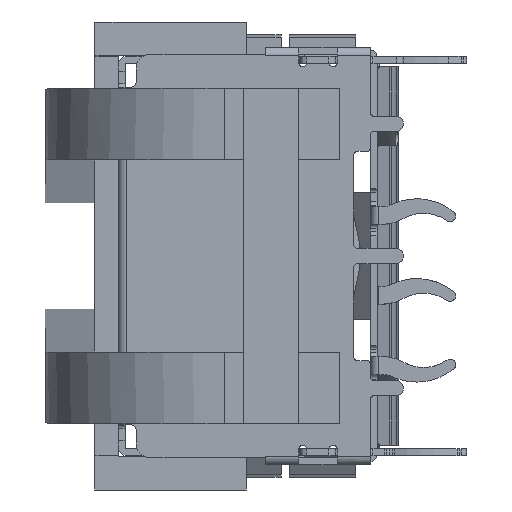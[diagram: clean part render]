
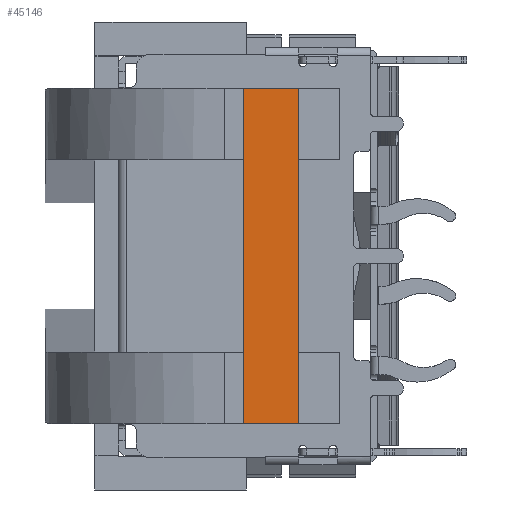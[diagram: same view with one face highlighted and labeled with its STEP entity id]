
A CAD part, left-side view. The second image highlights one B-rep face of the part: STEP entity #45146.
In plain terms, the highlighted planar face has unit normal (-1, 0, 0).
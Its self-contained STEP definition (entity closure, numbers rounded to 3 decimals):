
#467 = LINE ( 'NONE', #20892, #5083 ) ;
#3377 = VECTOR ( 'NONE', #7605, 1000. ) ;
#3495 = EDGE_CURVE ( 'NONE', #20195, #42053, #27707, .T. ) ;
#4901 = VECTOR ( 'NONE', #42388, 1000. ) ;
#5083 = VECTOR ( 'NONE', #46391, 1000. ) ;
#5274 = PLANE ( 'NONE',  #10596 ) ;
#5546 = CARTESIAN_POINT ( 'NONE',  ( 1445.861, 499.675, 1.15 ) ) ;
#5706 = DIRECTION ( 'NONE',  ( 0., 0., 1. ) ) ;
#6415 = VERTEX_POINT ( 'NONE', #25280 ) ;
#6889 = EDGE_CURVE ( 'NONE', #26444, #6415, #467, .T. ) ;
#7605 = DIRECTION ( 'NONE',  ( 0., -1., 0. ) ) ;
#7952 = FACE_OUTER_BOUND ( 'NONE', #9151, .T. ) ;
#9151 = EDGE_LOOP ( 'NONE', ( #42380, #21720, #41204, #13037 ) ) ;
#10596 = AXIS2_PLACEMENT_3D ( 'NONE', #12678, #38244, #16351 ) ;
#12016 = LINE ( 'NONE', #33220, #3377 ) ;
#12678 = CARTESIAN_POINT ( 'NONE',  ( 1445.861, 497.675, 13.35 ) ) ;
#13037 = ORIENTED_EDGE ( 'NONE', *, *, #16106, .T. ) ;
#13147 = CARTESIAN_POINT ( 'NONE',  ( 1445.861, 496.175, 13.35 ) ) ;
#16106 = EDGE_CURVE ( 'NONE', #20195, #26444, #12016, .T. ) ;
#16351 = DIRECTION ( 'NONE',  ( 0., 0., 1. ) ) ;
#19005 = EDGE_CURVE ( 'NONE', #6415, #42053, #44932, .T. ) ;
#20195 = VERTEX_POINT ( 'NONE', #23354 ) ;
#20892 = CARTESIAN_POINT ( 'NONE',  ( 1445.861, 497.675, 13.35 ) ) ;
#21720 = ORIENTED_EDGE ( 'NONE', *, *, #19005, .T. ) ;
#23354 = CARTESIAN_POINT ( 'NONE',  ( 1445.861, 499.675, 1.15 ) ) ;
#25280 = CARTESIAN_POINT ( 'NONE',  ( 1445.861, 497.675, 13.35 ) ) ;
#26444 = VERTEX_POINT ( 'NONE', #37201 ) ;
#26533 = VECTOR ( 'NONE', #5706, 1000. ) ;
#27707 = LINE ( 'NONE', #5546, #26533 ) ;
#33220 = CARTESIAN_POINT ( 'NONE',  ( 1445.861, 506.813, 1.15 ) ) ;
#33290 = CARTESIAN_POINT ( 'NONE',  ( 1445.861, 499.675, 13.35 ) ) ;
#37201 = CARTESIAN_POINT ( 'NONE',  ( 1445.861, 497.675, 1.15 ) ) ;
#38244 = DIRECTION ( 'NONE',  ( -1., 0., 0. ) ) ;
#41204 = ORIENTED_EDGE ( 'NONE', *, *, #3495, .F. ) ;
#42053 = VERTEX_POINT ( 'NONE', #33290 ) ;
#42380 = ORIENTED_EDGE ( 'NONE', *, *, #6889, .T. ) ;
#42388 = DIRECTION ( 'NONE',  ( 0., 1., 0. ) ) ;
#44932 = LINE ( 'NONE', #13147, #4901 ) ;
#45146 = ADVANCED_FACE ( 'NONE', ( #7952 ), #5274, .T. ) ;
#46391 = DIRECTION ( 'NONE',  ( 0., 0., 1. ) ) ;
